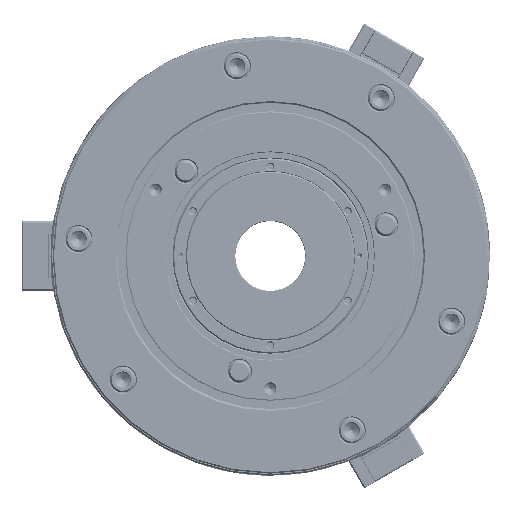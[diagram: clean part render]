
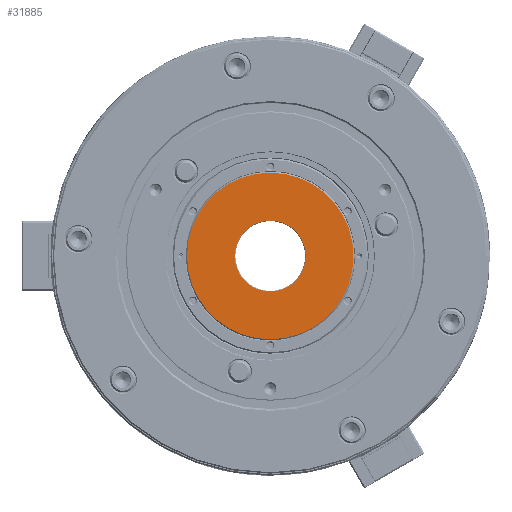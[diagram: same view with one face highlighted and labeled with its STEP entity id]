
A CAD part, left-side view. The second image highlights one B-rep face of the part: STEP entity #31885.
In plain terms, the highlighted planar face has unit normal (-1, 0, 0).
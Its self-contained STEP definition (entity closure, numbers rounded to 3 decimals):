
#5783 = EDGE_LOOP ( 'NONE', ( #72384, #65188 ) ) ;
#20873 = PLANE ( 'NONE',  #51125 ) ;
#27634 = CARTESIAN_POINT ( 'NONE',  ( -47., 0., 0. ) ) ;
#28701 = CARTESIAN_POINT ( 'NONE',  ( -47., 0., -59.7 ) ) ;
#30385 = DIRECTION ( 'NONE',  ( -1., 0., 0. ) ) ;
#31839 = AXIS2_PLACEMENT_3D ( 'NONE', #185325, #69815, #182820 ) ;
#31885 = ADVANCED_FACE ( 'NONE', ( #174041, #158942 ), #20873, .F. ) ;
#46448 = DIRECTION ( 'NONE',  ( 0., 0., 1. ) ) ;
#51125 = AXIS2_PLACEMENT_3D ( 'NONE', #177774, #136359, #153979 ) ;
#51188 = VERTEX_POINT ( 'NONE', #232668 ) ;
#57573 = ORIENTED_EDGE ( 'NONE', *, *, #168646, .F. ) ;
#65188 = ORIENTED_EDGE ( 'NONE', *, *, #116316, .T. ) ;
#68156 = VERTEX_POINT ( 'NONE', #179803 ) ;
#68351 = CARTESIAN_POINT ( 'NONE',  ( -47., 0., 0. ) ) ;
#69815 = DIRECTION ( 'NONE',  ( -1., 0., 0. ) ) ;
#69932 = CIRCLE ( 'NONE', #154168, 59.7 ) ;
#72384 = ORIENTED_EDGE ( 'NONE', *, *, #200772, .T. ) ;
#105168 = ORIENTED_EDGE ( 'NONE', *, *, #139993, .F. ) ;
#116316 = EDGE_CURVE ( 'NONE', #51188, #125810, #69932, .T. ) ;
#121509 = CIRCLE ( 'NONE', #145704, 59.7 ) ;
#125810 = VERTEX_POINT ( 'NONE', #28701 ) ;
#136359 = DIRECTION ( 'NONE',  ( 1., 0., 0. ) ) ;
#139993 = EDGE_CURVE ( 'NONE', #202209, #68156, #140123, .T. ) ;
#140123 = CIRCLE ( 'NONE', #31839, 25.4 ) ;
#144945 = DIRECTION ( 'NONE',  ( 0., 0., 1. ) ) ;
#145704 = AXIS2_PLACEMENT_3D ( 'NONE', #27634, #180813, #46448 ) ;
#153979 = DIRECTION ( 'NONE',  ( 0., 0., -1. ) ) ;
#154168 = AXIS2_PLACEMENT_3D ( 'NONE', #68351, #166252, #144945 ) ;
#158942 = FACE_OUTER_BOUND ( 'NONE', #5783, .T. ) ;
#165999 = DIRECTION ( 'NONE',  ( 0., 0., 1. ) ) ;
#166252 = DIRECTION ( 'NONE',  ( -1., 0., 0. ) ) ;
#168646 = EDGE_CURVE ( 'NONE', #68156, #202209, #179267, .T. ) ;
#174041 = FACE_BOUND ( 'NONE', #223256, .T. ) ;
#177774 = CARTESIAN_POINT ( 'NONE',  ( -47., 59.7, 0. ) ) ;
#179267 = CIRCLE ( 'NONE', #231409, 25.4 ) ;
#179803 = CARTESIAN_POINT ( 'NONE',  ( -47., 0., 25.4 ) ) ;
#180813 = DIRECTION ( 'NONE',  ( -1., 0., 0. ) ) ;
#182820 = DIRECTION ( 'NONE',  ( 0., 0., 1. ) ) ;
#185325 = CARTESIAN_POINT ( 'NONE',  ( -47., 0., 0. ) ) ;
#200772 = EDGE_CURVE ( 'NONE', #125810, #51188, #121509, .T. ) ;
#202209 = VERTEX_POINT ( 'NONE', #202660 ) ;
#202660 = CARTESIAN_POINT ( 'NONE',  ( -47., 0., -25.4 ) ) ;
#223256 = EDGE_LOOP ( 'NONE', ( #57573, #105168 ) ) ;
#224949 = CARTESIAN_POINT ( 'NONE',  ( -47., 0., 0. ) ) ;
#231409 = AXIS2_PLACEMENT_3D ( 'NONE', #224949, #30385, #165999 ) ;
#232668 = CARTESIAN_POINT ( 'NONE',  ( -47., 0., 59.7 ) ) ;
